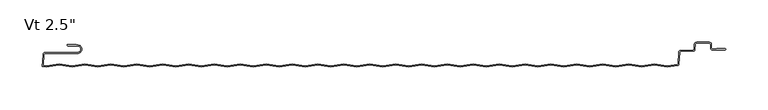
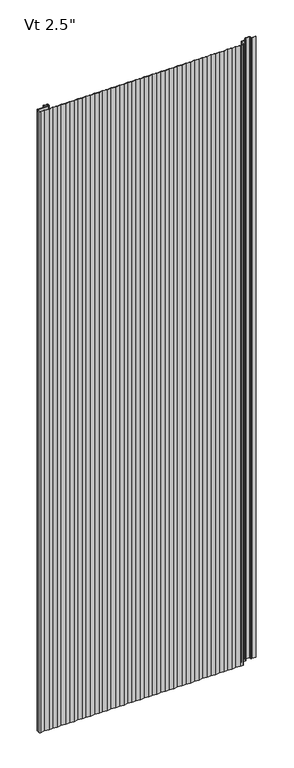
"""IFC4 building model written with IfcOpenShell, lengths in millimetres: plate geometry."""

from ifc_helpers import new_model, si_unit, point, frame, origin, place, context, project, spatial, polyline, circle_curve, ellipse_curve, trimmed, source, transform, mapped, element, save
from ifc_brep_helpers import plane_surface, cylinder_surface, revolved_surface, extruded_surface, advanced_brep


def plate_2a4f19af(model_context):
    return source(origin(), model_context, "Body", "AdvancedBrep", [
        advanced_brep(
        [(-404.2252049, -38.1, 2400.0), (-404.2252049, -39.6875, 2400.0), (-392.9142674, -39.6875, 2400.0), (-392.9142674, -47.625, 2400.0), (-431.0975721, -47.625, 2400.0), (-433.4755586, -49.881625, 2400.0), (-434.21832, -64.0543553, 2400.0), (-429.8646686, -64.7509395, 2400.0), (-414.6246686, -62.3125395, 2400.0), (-399.3846686, -64.7509395, 2400.0), (-384.1446686, -62.3125395, 2400.0), (-368.9046686, -64.7509395, 2400.0), (-353.6646686, -62.3125395, 2400.0), (-338.4246686, -64.7509395, 2400.0), (-323.1846686, -62.3125395, 2400.0), (-307.9446686, -64.7509395, 2400.0), (-292.7046686, -62.3125395, 2400.0), (-277.4646686, -64.7509395, 2400.0), (-262.2246686, -62.3125395, 2400.0), (-246.9846686, -64.7509395, 2400.0), (-231.7446686, -62.3125395, 2400.0), (-216.5046686, -64.7509395, 2400.0), (-201.2646686, -62.3125395, 2400.0), (-186.0246686, -64.7509395, 2400.0), (-170.7846686, -62.3125395, 2400.0), (-155.5446686, -64.7509395, 2400.0), (-140.3046686, -62.3125395, 2400.0), (-125.0646686, -64.7509395, 2400.0), (-109.8246686, -62.3125395, 2400.0), (-94.5846686, -64.7509395, 2400.0), (-79.3446686, -62.3125395, 2400.0), (-64.1046686, -64.7509395, 2400.0), (-48.8646686, -62.3125395, 2400.0), (-33.6246686, -64.7509395, 2400.0), (-18.3846686, -62.3125395, 2400.0), (-3.1446686, -64.7509395, 2400.0), (12.0953314, -62.3125395, 2400.0), (27.3353314, -64.7509395, 2400.0), (42.5753314, -62.3125395, 2400.0), (57.8153314, -64.7509395, 2400.0), (73.0553314, -62.3125395, 2400.0), (88.2953314, -64.7509395, 2400.0), (103.5353314, -62.3125395, 2400.0), (118.7753314, -64.7509395, 2400.0), (134.0153314, -62.3125395, 2400.0), (149.2553314, -64.7509395, 2400.0), (164.4953314, -62.3125395, 2400.0), (179.7353314, -64.7509395, 2400.0), (194.9753314, -62.3125395, 2400.0), (210.2153314, -64.7509395, 2400.0), (225.4553314, -62.3125395, 2400.0), (240.6953314, -64.7509395, 2400.0), (255.9353314, -62.3125395, 2400.0), (271.1753314, -64.7509395, 2400.0), (286.4153314, -62.3125395, 2400.0), (301.4527639, -64.7185287, 2400.0), (313.8944828, -62.7278537, 2400.0), (315.2289973, -61.243375, 2400.0), (315.9470603, -47.5419167, 2400.0), (317.5323847, -46.0375, 2400.0), (331.6886911, -46.0375, 2400.0), (334.0666776, -43.780875, 2400.0), (334.3687539, -38.0169167, 2400.0), (335.9540783, -36.5125, 2400.0), (350.8294826, -36.5125, 2400.0), (352.4169826, -38.1, 2400.0), (352.4169826, -42.2671875, 2400.0), (354.7982326, -44.6484375, 2400.0), (369.2898532, -44.6484375, 2400.0), (369.2898532, -42.8546875, 2400.0), (359.5607326, -42.8546875, 2400.0), (359.5607326, -43.6484375, 2400.0), (354.7982326, -43.6484375, 2400.0), (353.4169826, -42.2671875, 2400.0), (353.4169826, -38.1, 2400.0), (350.8294826, -35.5125, 2400.0), (335.9540783, -35.5125, 2400.0), (333.3701244, -37.9645807, 2400.0), (333.0680481, -43.728539, 2400.0), (331.6886911, -45.0375, 2400.0), (317.5323847, -45.0375, 2400.0), (314.9484307, -47.4895807, 2400.0), (314.2303677, -61.191039, 2400.0), (313.7364923, -61.740413, 2400.0), (301.4527639, -63.7058096, 2400.0), (286.4153314, -61.2998204, 2400.0), (271.1753314, -63.7382204, 2400.0), (255.9353314, -61.2998204, 2400.0), (240.6953314, -63.7382204, 2400.0), (225.4553314, -61.2998204, 2400.0), (210.2153314, -63.7382204, 2400.0), (194.9753314, -61.2998204, 2400.0), (179.7353314, -63.7382204, 2400.0), (164.4953314, -61.2998204, 2400.0), (149.2553314, -63.7382204, 2400.0), (134.0153314, -61.2998204, 2400.0), (118.7753314, -63.7382204, 2400.0), (103.5353314, -61.2998204, 2400.0), (88.2953314, -63.7382204, 2400.0), (73.0553314, -61.2998204, 2400.0), (57.8153314, -63.7382204, 2400.0), (42.5753314, -61.2998204, 2400.0), (27.3353314, -63.7382204, 2400.0), (12.0953314, -61.2998204, 2400.0), (-3.1446686, -63.7382204, 2400.0), (-18.3846686, -61.2998204, 2400.0), (-33.6246686, -63.7382204, 2400.0), (-48.8646686, -61.2998204, 2400.0), (-64.1046686, -63.7382204, 2400.0), (-79.3446686, -61.2998204, 2400.0), (-94.5846686, -63.7382204, 2400.0), (-109.8246686, -61.2998204, 2400.0), (-125.0646686, -63.7382204, 2400.0), (-140.3046686, -61.2998204, 2400.0), (-155.5446686, -63.7382204, 2400.0), (-170.7846686, -61.2998204, 2400.0), (-186.0246686, -63.7382204, 2400.0), (-201.2646686, -61.2998204, 2400.0), (-216.5046686, -63.7382204, 2400.0), (-231.7446686, -61.2998204, 2400.0), (-246.9846686, -63.7382204, 2400.0), (-262.2246686, -61.2998204, 2400.0), (-277.4646686, -63.7382204, 2400.0), (-292.7046686, -61.2998204, 2400.0), (-307.9446686, -63.7382204, 2400.0), (-323.1846686, -61.2998204, 2400.0), (-338.4246686, -63.7382204, 2400.0), (-353.6646686, -61.2998204, 2400.0), (-368.9046686, -63.7382204, 2400.0), (-384.1446686, -61.2998204, 2400.0), (-399.3846686, -63.7382204, 2400.0), (-414.6246686, -61.2998204, 2400.0), (-429.8646686, -63.7382204, 2400.0), (-433.1726415, -63.2089447, 2400.0), (-432.4769291, -49.933961, 2400.0), (-431.0975721, -48.625, 2400.0), (-392.9142674, -48.625, 2400.0), (-392.9142674, -38.6875, 2400.0), (-394.5017674, -38.89375, 2400.0), (-394.5017674, -38.1, 2400.0), (-404.2252049, -38.1, 0.0), (-394.5017674, -38.1, 0.0), (-394.5017674, -38.89375, 0.0), (-392.9142674, -38.6875, 0.0), (-392.9142674, -48.625, 0.0), (-431.0975721, -48.625, 0.0), (-432.4769291, -49.933961, 0.0), (-433.1726415, -63.2089447, 0.0), (-429.8646686, -63.7382204, 0.0), (-414.6246686, -61.2998204, 0.0), (-399.3846686, -63.7382204, 0.0), (-384.1446686, -61.2998204, 0.0), (-368.9046686, -63.7382204, 0.0), (-353.6646686, -61.2998204, 0.0), (-338.4246686, -63.7382204, 0.0), (-323.1846686, -61.2998204, 0.0), (-307.9446686, -63.7382204, 0.0), (-292.7046686, -61.2998204, 0.0), (-277.4646686, -63.7382204, 0.0), (-262.2246686, -61.2998204, 0.0), (-246.9846686, -63.7382204, 0.0), (-231.7446686, -61.2998204, 0.0), (-216.5046686, -63.7382204, 0.0), (-201.2646686, -61.2998204, 0.0), (-186.0246686, -63.7382204, 0.0), (-170.7846686, -61.2998204, 0.0), (-155.5446686, -63.7382204, 0.0), (-140.3046686, -61.2998204, 0.0), (-125.0646686, -63.7382204, 0.0), (-109.8246686, -61.2998204, 0.0), (-94.5846686, -63.7382204, 0.0), (-79.3446686, -61.2998204, 0.0), (-64.1046686, -63.7382204, 0.0), (-48.8646686, -61.2998204, 0.0), (-33.6246686, -63.7382204, 0.0), (-18.3846686, -61.2998204, 0.0), (-3.1446686, -63.7382204, 0.0), (12.0953314, -61.2998204, 0.0), (27.3353314, -63.7382204, 0.0), (42.5753314, -61.2998204, 0.0), (57.8153314, -63.7382204, 0.0), (73.0553314, -61.2998204, 0.0), (88.2953314, -63.7382204, 0.0), (103.5353314, -61.2998204, 0.0), (118.7753314, -63.7382204, 0.0), (134.0153314, -61.2998204, 0.0), (149.2553314, -63.7382204, 0.0), (164.4953314, -61.2998204, 0.0), (179.7353314, -63.7382204, 0.0), (194.9753314, -61.2998204, 0.0), (210.2153314, -63.7382204, 0.0), (225.4553314, -61.2998204, 0.0), (240.6953314, -63.7382204, 0.0), (255.9353314, -61.2998204, 0.0), (271.1753314, -63.7382204, 0.0), (286.4153314, -61.2998204, 0.0), (301.4527639, -63.7058096, 0.0), (313.7364923, -61.740413, 0.0), (314.2303677, -61.191039, 0.0), (314.9484307, -47.4895807, 0.0), (317.5323847, -45.0375, 0.0), (331.6886911, -45.0375, 0.0), (333.0680481, -43.728539, 0.0), (333.3701244, -37.9645807, 0.0), (335.9540783, -35.5125, 0.0), (350.8294826, -35.5125, 0.0), (353.4169826, -38.1, 0.0), (353.4169826, -42.2671875, 0.0), (354.7982326, -43.6484375, 0.0), (359.5607326, -43.6484375, 0.0), (359.5607326, -42.8546875, 0.0), (369.2898532, -42.8546875, 0.0), (369.2898532, -44.6484375, 0.0), (354.7982326, -44.6484375, 0.0), (352.4169826, -42.2671875, 0.0), (352.4169826, -38.1, 0.0), (350.8294826, -36.5125, 0.0), (335.9540783, -36.5125, 0.0), (334.3687539, -38.0169167, 0.0), (334.0666776, -43.780875, 0.0), (331.6886911, -46.0375, 0.0), (317.5323847, -46.0375, 0.0), (315.9470603, -47.5419167, 0.0), (315.2289973, -61.243375, 0.0), (313.8944828, -62.7278537, 0.0), (301.4527639, -64.7185287, 0.0), (286.4153314, -62.3125395, 0.0), (271.1753314, -64.7509395, 0.0), (255.9353314, -62.3125395, 0.0), (240.6953314, -64.7509395, 0.0), (225.4553314, -62.3125395, 0.0), (210.2153314, -64.7509395, 0.0), (194.9753314, -62.3125395, 0.0), (179.7353314, -64.7509395, 0.0), (164.4953314, -62.3125395, 0.0), (149.2553314, -64.7509395, 0.0), (134.0153314, -62.3125395, 0.0), (118.7753314, -64.7509395, 0.0), (103.5353314, -62.3125395, 0.0), (88.2953314, -64.7509395, 0.0), (73.0553314, -62.3125395, 0.0), (57.8153314, -64.7509395, 0.0), (42.5753314, -62.3125395, 0.0), (27.3353314, -64.7509395, 0.0), (12.0953314, -62.3125395, 0.0), (-3.1446686, -64.7509395, 0.0), (-18.3846686, -62.3125395, 0.0), (-33.6246686, -64.7509395, 0.0), (-48.8646686, -62.3125395, 0.0), (-64.1046686, -64.7509395, 0.0), (-79.3446686, -62.3125395, 0.0), (-94.5846686, -64.7509395, 0.0), (-109.8246686, -62.3125395, 0.0), (-125.0646686, -64.7509395, 0.0), (-140.3046686, -62.3125395, 0.0), (-155.5446686, -64.7509395, 0.0), (-170.7846686, -62.3125395, 0.0), (-186.0246686, -64.7509395, 0.0), (-201.2646686, -62.3125395, 0.0), (-216.5046686, -64.7509395, 0.0), (-231.7446686, -62.3125395, 0.0), (-246.9846686, -64.7509395, 0.0), (-262.2246686, -62.3125395, 0.0), (-277.4646686, -64.7509395, 0.0), (-292.7046686, -62.3125395, 0.0), (-307.9446686, -64.7509395, 0.0), (-323.1846686, -62.3125395, 0.0), (-338.4246686, -64.7509395, 0.0), (-353.6646686, -62.3125395, 0.0), (-368.9046686, -64.7509395, 0.0), (-384.1446686, -62.3125395, 0.0), (-399.3846686, -64.7509395, 0.0), (-414.6246686, -62.3125395, 0.0), (-429.8646686, -64.7509395, 0.0), (-434.21832, -64.0543553, 0.0), (-433.4755586, -49.881625, 0.0), (-431.0975721, -47.625, 0.0), (-392.9142674, -47.625, 0.0), (-392.9142674, -39.6875, 0.0), (-404.2252049, -39.6875, 0.0)],
        [
            (0, 1, circle_curve(frame((-404.2252049, -38.89375, 2400.0), z_axis=(0.0, 0.0, 1.0), x_axis=(1.0, 0.0, 0.0)), 0.79375)),
            (1, 2),
            (2, 3, circle_curve(frame((-392.9142674, -43.65625, 2400.0), z_axis=(0.0, 0.0, -1.0), x_axis=(1.0, 0.0, 0.0)), 3.96875)),
            (3, 4),
            (4, 5, circle_curve(frame((-431.0975721, -50.00625, 2400.0), z_axis=(0.0, 0.0, 1.0), x_axis=(1.0, 0.0, 0.0)), 2.38125)),
            (5, 6),
            (6, 7),
            (7, 8),
            (8, 9),
            (9, 10),
            (10, 11),
            (11, 12),
            (12, 13),
            (13, 14),
            (14, 15),
            (15, 16),
            (16, 17),
            (17, 18),
            (18, 19),
            (19, 20),
            (20, 21),
            (21, 22),
            (22, 23),
            (23, 24),
            (24, 25),
            (25, 26),
            (26, 27),
            (27, 28),
            (28, 29),
            (29, 30),
            (30, 31),
            (31, 32),
            (32, 33),
            (33, 34),
            (34, 35),
            (35, 36),
            (36, 37),
            (37, 38),
            (38, 39),
            (39, 40),
            (40, 41),
            (41, 42),
            (42, 43),
            (43, 44),
            (44, 45),
            (45, 46),
            (46, 47),
            (47, 48),
            (48, 49),
            (49, 50),
            (50, 51),
            (51, 52),
            (52, 53),
            (53, 54),
            (54, 55),
            (55, 56),
            (56, 57, circle_curve(frame((313.6436729, -61.1602917, 2400.0), z_axis=(0.0, 0.0, 1.0), x_axis=(1.0, 0.0, 0.0)), 1.5875)),
            (57, 58),
            (58, 59, circle_curve(frame((317.5323847, -47.625, 2400.0), z_axis=(0.0, 0.0, -1.0), x_axis=(1.0, 0.0, 0.0)), 1.5875)),
            (59, 60),
            (60, 61, circle_curve(frame((331.6886911, -43.65625, 2400.0), z_axis=(0.0, 0.0, 1.0), x_axis=(1.0, 0.0, 0.0)), 2.38125)),
            (61, 62),
            (62, 63, circle_curve(frame((335.9540783, -38.1, 2400.0), z_axis=(0.0, 0.0, -1.0), x_axis=(1.0, 0.0, 0.0)), 1.5875)),
            (63, 64),
            (64, 65, circle_curve(frame((350.8294826, -38.1, 2400.0), z_axis=(0.0, 0.0, -1.0), x_axis=(1.0, 0.0, 0.0)), 1.5875)),
            (65, 66),
            (66, 67, circle_curve(frame((354.7982326, -42.2671875, 2400.0), z_axis=(0.0, 0.0, 1.0), x_axis=(1.0, 0.0, 0.0)), 2.38125)),
            (67, 68),
            (68, 69, ellipse_curve(frame((369.2898532, -43.7515625, 2400.0), z_axis=(0.0, 0.0, 1.0), x_axis=(0.0, 1.0, 0.0)), 0.896875, 0.7852275)),
            (69, 70),
            (70, 71),
            (71, 72),
            (72, 73, circle_curve(frame((354.7982326, -42.2671875, 2400.0), z_axis=(0.0, 0.0, -1.0), x_axis=(1.0, 0.0, 0.0)), 1.38125)),
            (73, 74),
            (74, 75, circle_curve(frame((350.8294826, -38.1, 2400.0), z_axis=(0.0, 0.0, 1.0), x_axis=(1.0, 0.0, 0.0)), 2.5875)),
            (75, 76),
            (76, 77, circle_curve(frame((335.9540783, -38.1, 2400.0), z_axis=(0.0, 0.0, 1.0), x_axis=(1.0, 0.0, 0.0)), 2.5875)),
            (77, 78),
            (78, 79, circle_curve(frame((331.6886911, -43.65625, 2400.0), z_axis=(0.0, 0.0, -1.0), x_axis=(1.0, 0.0, 0.0)), 1.38125)),
            (79, 80),
            (80, 81, circle_curve(frame((317.5323847, -47.625, 2400.0), z_axis=(0.0, 0.0, 1.0), x_axis=(1.0, 0.0, 0.0)), 2.5875)),
            (81, 82),
            (82, 83, circle_curve(frame((313.6436729, -61.1602917, 2400.0), z_axis=(0.0, 0.0, -1.0), x_axis=(1.0, 0.0, 0.0)), 0.5875)),
            (83, 84),
            (84, 85),
            (85, 86),
            (86, 87),
            (87, 88),
            (88, 89),
            (89, 90),
            (90, 91),
            (91, 92),
            (92, 93),
            (93, 94),
            (94, 95),
            (95, 96),
            (96, 97),
            (97, 98),
            (98, 99),
            (99, 100),
            (100, 101),
            (101, 102),
            (102, 103),
            (103, 104),
            (104, 105),
            (105, 106),
            (106, 107),
            (107, 108),
            (108, 109),
            (109, 110),
            (110, 111),
            (111, 112),
            (112, 113),
            (113, 114),
            (114, 115),
            (115, 116),
            (116, 117),
            (117, 118),
            (118, 119),
            (119, 120),
            (120, 121),
            (121, 122),
            (122, 123),
            (123, 124),
            (124, 125),
            (125, 126),
            (126, 127),
            (127, 128),
            (128, 129),
            (129, 130),
            (130, 131),
            (131, 132),
            (132, 133),
            (133, 134),
            (134, 135, circle_curve(frame((-431.0975721, -50.00625, 2400.0), z_axis=(0.0, 0.0, -1.0), x_axis=(1.0, 0.0, 0.0)), 1.38125)),
            (135, 136),
            (136, 137, circle_curve(frame((-392.9142674, -43.65625, 2400.0), z_axis=(0.0, 0.0, 1.0), x_axis=(1.0, 0.0, 0.0)), 4.96875)),
            (137, 138),
            (138, 139),
            (139, 0),
            (140, 141),
            (141, 142),
            (142, 143),
            (143, 144, circle_curve(frame((-392.9142674, -43.65625, 0.0), z_axis=(0.0, 0.0, -1.0), x_axis=(1.0, 0.0, 0.0)), 4.96875)),
            (144, 145),
            (145, 146, circle_curve(frame((-431.0975721, -50.00625, 0.0), z_axis=(0.0, 0.0, 1.0), x_axis=(1.0, 0.0, 0.0)), 1.38125)),
            (146, 147),
            (147, 148),
            (148, 149),
            (149, 150),
            (150, 151),
            (151, 152),
            (152, 153),
            (153, 154),
            (154, 155),
            (155, 156),
            (156, 157),
            (157, 158),
            (158, 159),
            (159, 160),
            (160, 161),
            (161, 162),
            (162, 163),
            (163, 164),
            (164, 165),
            (165, 166),
            (166, 167),
            (167, 168),
            (168, 169),
            (169, 170),
            (170, 171),
            (171, 172),
            (172, 173),
            (173, 174),
            (174, 175),
            (175, 176),
            (176, 177),
            (177, 178),
            (178, 179),
            (179, 180),
            (180, 181),
            (181, 182),
            (182, 183),
            (183, 184),
            (184, 185),
            (185, 186),
            (186, 187),
            (187, 188),
            (188, 189),
            (189, 190),
            (190, 191),
            (191, 192),
            (192, 193),
            (193, 194),
            (194, 195),
            (195, 196),
            (196, 197),
            (197, 198, circle_curve(frame((313.6436729, -61.1602917, 0.0), z_axis=(0.0, 0.0, 1.0), x_axis=(1.0, 0.0, 0.0)), 0.5875)),
            (198, 199),
            (199, 200, circle_curve(frame((317.5323847, -47.625, 0.0), z_axis=(0.0, 0.0, -1.0), x_axis=(1.0, 0.0, 0.0)), 2.5875)),
            (200, 201),
            (201, 202, circle_curve(frame((331.6886911, -43.65625, 0.0), z_axis=(0.0, 0.0, 1.0), x_axis=(1.0, 0.0, 0.0)), 1.38125)),
            (202, 203),
            (203, 204, circle_curve(frame((335.9540783, -38.1, 0.0), z_axis=(0.0, 0.0, -1.0), x_axis=(1.0, 0.0, 0.0)), 2.5875)),
            (204, 205),
            (205, 206, circle_curve(frame((350.8294826, -38.1, 0.0), z_axis=(0.0, 0.0, -1.0), x_axis=(1.0, 0.0, 0.0)), 2.5875)),
            (206, 207),
            (207, 208, circle_curve(frame((354.7982326, -42.2671875, 0.0), z_axis=(0.0, 0.0, 1.0), x_axis=(1.0, 0.0, 0.0)), 1.38125)),
            (208, 209),
            (209, 210),
            (210, 211),
            (211, 212, ellipse_curve(frame((369.2898532, -43.7515625, 0.0), z_axis=(0.0, 0.0, -1.0), x_axis=(0.0, 1.0, 0.0)), 0.896875, 0.7852275)),
            (212, 213),
            (213, 214, circle_curve(frame((354.7982326, -42.2671875, 0.0), z_axis=(0.0, 0.0, -1.0), x_axis=(1.0, 0.0, 0.0)), 2.38125)),
            (214, 215),
            (215, 216, circle_curve(frame((350.8294826, -38.1, 0.0), z_axis=(0.0, 0.0, 1.0), x_axis=(1.0, 0.0, 0.0)), 1.5875)),
            (216, 217),
            (217, 218, circle_curve(frame((335.9540783, -38.1, 0.0), z_axis=(0.0, 0.0, 1.0), x_axis=(1.0, 0.0, 0.0)), 1.5875)),
            (218, 219),
            (219, 220, circle_curve(frame((331.6886911, -43.65625, 0.0), z_axis=(0.0, 0.0, -1.0), x_axis=(1.0, 0.0, 0.0)), 2.38125)),
            (220, 221),
            (221, 222, circle_curve(frame((317.5323847, -47.625, 0.0), z_axis=(0.0, 0.0, 1.0), x_axis=(1.0, 0.0, 0.0)), 1.5875)),
            (222, 223),
            (223, 224, circle_curve(frame((313.6436729, -61.1602917, 0.0), z_axis=(0.0, 0.0, -1.0), x_axis=(1.0, 0.0, 0.0)), 1.5875)),
            (224, 225),
            (225, 226),
            (226, 227),
            (227, 228),
            (228, 229),
            (229, 230),
            (230, 231),
            (231, 232),
            (232, 233),
            (233, 234),
            (234, 235),
            (235, 236),
            (236, 237),
            (237, 238),
            (238, 239),
            (239, 240),
            (240, 241),
            (241, 242),
            (242, 243),
            (243, 244),
            (244, 245),
            (245, 246),
            (246, 247),
            (247, 248),
            (248, 249),
            (249, 250),
            (250, 251),
            (251, 252),
            (252, 253),
            (253, 254),
            (254, 255),
            (255, 256),
            (256, 257),
            (257, 258),
            (258, 259),
            (259, 260),
            (260, 261),
            (261, 262),
            (262, 263),
            (263, 264),
            (264, 265),
            (265, 266),
            (266, 267),
            (267, 268),
            (268, 269),
            (269, 270),
            (270, 271),
            (271, 272),
            (272, 273),
            (273, 274),
            (274, 275),
            (275, 276, circle_curve(frame((-431.0975721, -50.00625, 0.0), z_axis=(0.0, 0.0, -1.0), x_axis=(1.0, 0.0, 0.0)), 2.38125)),
            (276, 277),
            (277, 278, circle_curve(frame((-392.9142674, -43.65625, 0.0), z_axis=(0.0, 0.0, 1.0), x_axis=(1.0, 0.0, 0.0)), 3.96875)),
            (278, 279),
            (279, 140, circle_curve(frame((-404.2252049, -38.89375, 0.0), z_axis=(0.0, 0.0, -1.0), x_axis=(1.0, 0.0, 0.0)), 0.79375)),
            (139, 141),
            (140, 0),
            (279, 1),
            (278, 2),
            (277, 3),
            (276, 4),
            (275, 5),
            (274, 6),
            (58, 222),
            (221, 59),
            (220, 60),
            (219, 61),
            (218, 62),
            (217, 63),
            (134, 146),
            (145, 135),
            (80, 200),
            (199, 81),
            (79, 201),
            (78, 202),
            (77, 203),
            (76, 204),
            (71, 209),
            (208, 72),
            (207, 73),
            (206, 74),
            (216, 64),
            (215, 65),
            (214, 66),
            (213, 67),
            (212, 68),
            (75, 205),
            (144, 136),
            (143, 137),
            (138, 142),
            (70, 210),
            (69, 211),
            (85, 195),
            (194, 86),
            (193, 87),
            (192, 88),
            (191, 89),
            (190, 90),
            (189, 91),
            (188, 92),
            (187, 93),
            (186, 94),
            (185, 95),
            (184, 96),
            (183, 97),
            (182, 98),
            (181, 99),
            (129, 151),
            (150, 130),
            (149, 131),
            (148, 132),
            (147, 133),
            (273, 7),
            (272, 8),
            (271, 9),
            (270, 10),
            (24, 256),
            (255, 25),
            (254, 26),
            (253, 27),
            (252, 28),
            (40, 240),
            (239, 41),
            (238, 42),
            (39, 241),
            (38, 242),
            (37, 243),
            (36, 244),
            (35, 245),
            (34, 246),
            (33, 247),
            (32, 248),
            (31, 249),
            (30, 250),
            (29, 251),
            (114, 166),
            (165, 115),
            (113, 167),
            (112, 168),
            (111, 169),
            (110, 170),
            (109, 171),
            (108, 172),
            (107, 173),
            (106, 174),
            (105, 175),
            (104, 176),
            (103, 177),
            (102, 178),
            (101, 179),
            (100, 180),
            (121, 159),
            (158, 122),
            (57, 223),
            (198, 82),
            (54, 226),
            (225, 55),
            (84, 196),
            (237, 43),
            (236, 44),
            (235, 45),
            (234, 46),
            (233, 47),
            (232, 48),
            (231, 49),
            (230, 50),
            (229, 51),
            (228, 52),
            (157, 123),
            (227, 53),
            (224, 56),
            (197, 83),
            (164, 116),
            (163, 117),
            (162, 118),
            (161, 119),
            (160, 120),
            (19, 261),
            (260, 20),
            (18, 262),
            (259, 21),
            (22, 258),
            (257, 23),
            (156, 124),
            (125, 155),
            (154, 126),
            (153, 127),
            (12, 268),
            (267, 13),
            (266, 14),
            (265, 15),
            (264, 16),
            (263, 17),
            (152, 128),
            (269, 11),
        ],
        [
            plane_surface(frame((0.00625, -63.5, 2400.0), z_axis=(0.0, 0.0, 1.0), x_axis=(0.0, -1.0, 0.0))),
            plane_surface(frame((0.00625, -63.5, 0.0), z_axis=(0.0, 0.0, -1.0), x_axis=(0.0, -1.0, 0.0))),
            plane_surface(frame((-404.2252049, -38.1, 2400.0), z_axis=(0.0, 1.0, 0.0), x_axis=(0.0, 0.0, -1.0))),
            cylinder_surface(frame((-404.2252049, -38.89375, 2400.0), z_axis=(0.0, 0.0, 1.0), x_axis=(1.0, 0.0, 0.0)), 0.79375),
            plane_surface(frame((-392.9142674, -39.6875, 2400.0), z_axis=(0.0, -1.0, 0.0), x_axis=(0.0, 0.0, -1.0))),
            revolved_surface(polyline([(-388.9455174, -43.65625, 0.0), (-388.9455174, -43.65625, 2400.0)]), (-392.9142674, -43.65625, 2400.0), (0.0, 0.0, -1.0)),
            plane_surface(frame((-431.0975721, -47.625, 2400.0), z_axis=(0.0, 1.0, 0.0), x_axis=(0.0, 0.0, -1.0))),
            cylinder_surface(frame((-431.0975721, -50.00625, 2400.0), z_axis=(0.0, 0.0, 1.0), x_axis=(1.0, 0.0, 0.0)), 2.38125),
            plane_surface(frame((-434.21832, -64.0543553, 2400.0), z_axis=(-0.9986295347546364, 0.05233595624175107, 0.0), x_axis=(0.0, 0.0, -1.0))),
            revolved_surface(polyline([(319.1198847, -47.625, 0.0), (319.1198847, -47.625, 2400.0)]), (317.5323847, -47.625, 2400.0), (0.0, 0.0, -1.0)),
            plane_surface(frame((331.6886911, -46.0375, 2400.0), z_axis=(0.0, -1.0, 0.0), x_axis=(0.0, 0.0, -1.0))),
            cylinder_surface(frame((331.6886911, -43.65625, 2400.0), z_axis=(0.0, 0.0, 1.0), x_axis=(1.0, 0.0, 0.0)), 2.38125),
            plane_surface(frame((334.3687539, -38.0169167, 2400.0), z_axis=(0.9986295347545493, -0.052335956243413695, 0.0), x_axis=(0.0, 0.0, -1.0))),
            revolved_surface(polyline([(337.54157829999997, -38.1, 0.0), (337.54157829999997, -38.1, 2400.0)]), (335.9540783, -38.1, 2400.0), (0.0, 0.0, -1.0)),
            revolved_surface(polyline([(-429.71632209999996, -50.00625, 0.0), (-429.71632209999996, -50.00625, 2400.0)]), (-431.0975721, -50.00625, 2400.0), (0.0, 0.0, -1.0)),
            cylinder_surface(frame((317.5323847, -47.625, 2400.0), z_axis=(0.0, 0.0, 1.0), x_axis=(1.0, 0.0, 0.0)), 2.5875),
            plane_surface(frame((317.5323847, -45.0375, 2400.0), z_axis=(0.0, 1.0, 0.0), x_axis=(0.0, 0.0, -1.0))),
            revolved_surface(polyline([(333.06994110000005, -43.65625, 0.0), (333.06994110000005, -43.65625, 2400.0)]), (331.6886911, -43.65625, 2400.0), (0.0, 0.0, -1.0)),
            plane_surface(frame((333.0680481, -43.728539, 2400.0), z_axis=(-0.998629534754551, 0.05233595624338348, 0.0), x_axis=(0.0, 0.0, -1.0))),
            cylinder_surface(frame((335.9540783, -38.1, 2400.0), z_axis=(0.0, 0.0, 1.0), x_axis=(1.0, 0.0, 0.0)), 2.5875),
            plane_surface(frame((354.7982326, -43.6484375, 2400.0), z_axis=(0.0, 1.0, 0.0), x_axis=(0.0, 0.0, -1.0))),
            revolved_surface(polyline([(356.17948260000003, -42.2671875, 0.0), (356.17948260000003, -42.2671875, 2400.0)]), (354.7982326, -42.2671875, 2400.0), (0.0, 0.0, -1.0)),
            plane_surface(frame((353.4169826, -38.1, 2400.0), z_axis=(1.0, 0.0, 0.0), x_axis=(0.0, 0.0, -1.0))),
            plane_surface(frame((350.8294826, -36.5125, 2400.0), z_axis=(0.0, -1.0, 0.0), x_axis=(0.0, 0.0, -1.0))),
            revolved_surface(polyline([(352.4169826, -38.1, 0.0), (352.4169826, -38.1, 2400.0)]), (350.8294826, -38.1, 2400.0), (0.0, 0.0, -1.0)),
            plane_surface(frame((352.4169826, -42.2671875, 2400.0), z_axis=(-1.0, 0.0, 0.0), x_axis=(0.0, 0.0, -1.0))),
            cylinder_surface(frame((354.7982326, -42.2671875, 2400.0), z_axis=(0.0, 0.0, 1.0), x_axis=(1.0, 0.0, 0.0)), 2.38125),
            plane_surface(frame((369.2898532, -44.6484375, 2400.0), z_axis=(0.0, -1.0, 0.0), x_axis=(0.0, 0.0, -1.0))),
            plane_surface(frame((335.9540783, -35.5125, 2400.0), z_axis=(0.0, 1.0, 0.0), x_axis=(0.0, 0.0, -1.0))),
            cylinder_surface(frame((350.8294826, -38.1, 2400.0), z_axis=(0.0, 0.0, 1.0), x_axis=(1.0, 0.0, 0.0)), 2.5875),
            plane_surface(frame((-392.9142674, -48.625, 2400.0), z_axis=(0.0, -1.0, 0.0), x_axis=(0.0, 0.0, -1.0))),
            cylinder_surface(frame((-392.9142674, -43.65625, 2400.0), z_axis=(0.0, 0.0, 1.0), x_axis=(1.0, 0.0, 0.0)), 4.96875),
            plane_surface(frame((-394.5017674, -38.1, 2400.0), z_axis=(1.0, 0.0, 0.0), x_axis=(0.0, 0.0, -1.0))),
            plane_surface(frame((-394.5017674, -38.89375, 2400.0), z_axis=(-0.12883844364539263, 0.9916655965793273, 0.0), x_axis=(0.0, 0.0, -1.0))),
            plane_surface(frame((359.5607326, -43.6484375, 2400.0), z_axis=(-1.0, 0.0, 0.0), x_axis=(0.0, 0.0, -1.0))),
            plane_surface(frame((359.5607326, -42.8546875, 2400.0), z_axis=(0.0, 1.0, 0.0), x_axis=(0.0, 0.0, -1.0))),
            extruded_surface(trimmed(ellipse_curve(frame((369.2898532, -43.7515625, 2400.0), z_axis=(0.0, 0.0, -1.0), x_axis=(0.0, 1.0, 0.0)), 0.896875, 0.7852275), [point((369.2898532, -42.8546875, 2400.0))], [point((369.2898532, -44.6484375, 2400.0))], True, "CARTESIAN"), (0.0, 0.0, -2400.0), 2400.0),
            plane_surface(frame((271.1753314, -63.7382204, 2400.0), z_axis=(-0.15799050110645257, 0.9874406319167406, 0.0), x_axis=(0.0, 0.0, -1.0))),
            plane_surface(frame((255.9353314, -61.2998204, 2400.0), z_axis=(0.157990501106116, 0.9874406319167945, 0.0), x_axis=(0.0, 0.0, -1.0))),
            plane_surface(frame((240.6953314, -63.7382204, 2400.0), z_axis=(-0.15799050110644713, 0.9874406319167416, 0.0), x_axis=(0.0, 0.0, -1.0))),
            plane_surface(frame((225.4553314, -61.2998204, 2400.0), z_axis=(0.157990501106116, 0.9874406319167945, 0.0), x_axis=(0.0, 0.0, -1.0))),
            plane_surface(frame((210.2153314, -63.7382204, 2400.0), z_axis=(-0.15799050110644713, 0.9874406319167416, 0.0), x_axis=(0.0, 0.0, -1.0))),
            plane_surface(frame((194.9753314, -61.2998204, 2400.0), z_axis=(0.157990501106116, 0.9874406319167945, 0.0), x_axis=(0.0, 0.0, -1.0))),
            plane_surface(frame((179.7353314, -63.7382204, 2400.0), z_axis=(-0.15799050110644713, 0.9874406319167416, 0.0), x_axis=(0.0, 0.0, -1.0))),
            plane_surface(frame((164.4953314, -61.2998204, 2400.0), z_axis=(0.15799050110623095, 0.9874406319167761, 0.0), x_axis=(0.0, 0.0, -1.0))),
            plane_surface(frame((149.2553314, -63.7382204, 2400.0), z_axis=(-0.15799050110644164, 0.9874406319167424, 0.0), x_axis=(0.0, 0.0, -1.0))),
            plane_surface(frame((134.0153314, -61.2998204, 2400.0), z_axis=(0.15799050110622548, 0.987440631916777, 0.0), x_axis=(0.0, 0.0, -1.0))),
            plane_surface(frame((118.7753314, -63.7382204, 2400.0), z_axis=(-0.15799050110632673, 0.9874406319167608, 0.0), x_axis=(0.0, 0.0, -1.0))),
            plane_surface(frame((103.5353314, -61.2998204, 2400.0), z_axis=(0.15799050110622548, 0.987440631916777, 0.0), x_axis=(0.0, 0.0, -1.0))),
            plane_surface(frame((88.2953314, -63.7382204, 2400.0), z_axis=(-0.15799050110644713, 0.9874406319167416, 0.0), x_axis=(0.0, 0.0, -1.0))),
            plane_surface(frame((73.0553314, -61.2998204, 2400.0), z_axis=(0.15799050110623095, 0.9874406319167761, 0.0), x_axis=(0.0, 0.0, -1.0))),
            plane_surface(frame((-399.3846686, -63.7382204, 2400.0), z_axis=(-0.15799050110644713, 0.9874406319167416, 0.0), x_axis=(0.0, 0.0, -1.0))),
            plane_surface(frame((-414.6246686, -61.2998204, 2400.0), z_axis=(0.157990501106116, 0.9874406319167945, 0.0), x_axis=(0.0, 0.0, -1.0))),
            plane_surface(frame((-429.8646686, -63.7382204, 2400.0), z_axis=(-0.15799050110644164, 0.9874406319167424, 0.0), x_axis=(0.0, 0.0, -1.0))),
            plane_surface(frame((-433.1726415, -63.2089447, 2400.0), z_axis=(0.1579905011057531, 0.9874406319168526, 0.0), x_axis=(0.0, 0.0, -1.0))),
            plane_surface(frame((-429.8646686, -64.7509395, 2400.0), z_axis=(-0.15799050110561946, -0.9874406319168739, 0.0), x_axis=(0.0, 0.0, -1.0))),
            plane_surface(frame((-414.6246686, -62.3125395, 2400.0), z_axis=(0.15799050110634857, -0.9874406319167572, 0.0), x_axis=(0.0, 0.0, -1.0))),
            plane_surface(frame((-399.3846686, -64.7509395, 2400.0), z_axis=(-0.15799050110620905, -0.9874406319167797, 0.0), x_axis=(0.0, 0.0, -1.0))),
            plane_surface(frame((-384.1446686, -62.3125395, 2400.0), z_axis=(0.15799050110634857, -0.9874406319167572, 0.0), x_axis=(0.0, 0.0, -1.0))),
            plane_surface(frame((-155.5446686, -64.7509395, 2400.0), z_axis=(-0.15799050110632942, -0.9874406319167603, 0.0), x_axis=(0.0, 0.0, -1.0))),
            plane_surface(frame((-140.3046686, -62.3125395, 2400.0), z_axis=(0.15799050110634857, -0.9874406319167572, 0.0), x_axis=(0.0, 0.0, -1.0))),
            plane_surface(frame((-125.0646686, -64.7509395, 2400.0), z_axis=(-0.15799050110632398, -0.9874406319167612, 0.0), x_axis=(0.0, 0.0, -1.0))),
            plane_surface(frame((-109.8246686, -62.3125395, 2400.0), z_axis=(0.15799050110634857, -0.9874406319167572, 0.0), x_axis=(0.0, 0.0, -1.0))),
            plane_surface(frame((88.2953314, -64.7509395, 2400.0), z_axis=(-0.15799050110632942, -0.9874406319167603, 0.0), x_axis=(0.0, 0.0, -1.0))),
            plane_surface(frame((103.5353314, -62.3125395, 2400.0), z_axis=(0.15799050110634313, -0.9874406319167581, 0.0), x_axis=(0.0, 0.0, -1.0))),
            plane_surface(frame((73.0553314, -62.3125395, 2400.0), z_axis=(0.15799050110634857, -0.9874406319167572, 0.0), x_axis=(0.0, 0.0, -1.0))),
            plane_surface(frame((57.8153314, -64.7509395, 2400.0), z_axis=(-0.15799050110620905, -0.9874406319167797, 0.0), x_axis=(0.0, 0.0, -1.0))),
            plane_surface(frame((42.5753314, -62.3125395, 2400.0), z_axis=(0.15799050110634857, -0.9874406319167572, 0.0), x_axis=(0.0, 0.0, -1.0))),
            plane_surface(frame((27.3353314, -64.7509395, 2400.0), z_axis=(-0.15799050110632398, -0.9874406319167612, 0.0), x_axis=(0.0, 0.0, -1.0))),
            plane_surface(frame((12.0953314, -62.3125395, 2400.0), z_axis=(0.15799050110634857, -0.9874406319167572, 0.0), x_axis=(0.0, 0.0, -1.0))),
            plane_surface(frame((-3.1446686, -64.7509395, 2400.0), z_axis=(-0.15799050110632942, -0.9874406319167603, 0.0), x_axis=(0.0, 0.0, -1.0))),
            plane_surface(frame((-18.3846686, -62.3125395, 2400.0), z_axis=(0.1579905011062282, -0.9874406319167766, 0.0), x_axis=(0.0, 0.0, -1.0))),
            plane_surface(frame((-33.6246686, -64.7509395, 2400.0), z_axis=(-0.15799050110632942, -0.9874406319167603, 0.0), x_axis=(0.0, 0.0, -1.0))),
            plane_surface(frame((-48.8646686, -62.3125395, 2400.0), z_axis=(0.15799050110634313, -0.9874406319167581, 0.0), x_axis=(0.0, 0.0, -1.0))),
            plane_surface(frame((-64.1046686, -64.7509395, 2400.0), z_axis=(-0.15799050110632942, -0.9874406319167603, 0.0), x_axis=(0.0, 0.0, -1.0))),
            plane_surface(frame((-79.3446686, -62.3125395, 2400.0), z_axis=(0.15799050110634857, -0.9874406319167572, 0.0), x_axis=(0.0, 0.0, -1.0))),
            plane_surface(frame((-94.5846686, -64.7509395, 2400.0), z_axis=(-0.15799050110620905, -0.9874406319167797, 0.0), x_axis=(0.0, 0.0, -1.0))),
            plane_surface(frame((-170.7846686, -61.2998204, 2400.0), z_axis=(0.15799050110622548, 0.987440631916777, 0.0), x_axis=(0.0, 0.0, -1.0))),
            plane_surface(frame((-155.5446686, -63.7382204, 2400.0), z_axis=(-0.15799050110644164, 0.9874406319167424, 0.0), x_axis=(0.0, 0.0, -1.0))),
            plane_surface(frame((-140.3046686, -61.2998204, 2400.0), z_axis=(0.15799050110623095, 0.9874406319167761, 0.0), x_axis=(0.0, 0.0, -1.0))),
            plane_surface(frame((-125.0646686, -63.7382204, 2400.0), z_axis=(-0.15799050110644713, 0.9874406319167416, 0.0), x_axis=(0.0, 0.0, -1.0))),
            plane_surface(frame((-109.8246686, -61.2998204, 2400.0), z_axis=(0.157990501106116, 0.9874406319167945, 0.0), x_axis=(0.0, 0.0, -1.0))),
            plane_surface(frame((-94.5846686, -63.7382204, 2400.0), z_axis=(-0.15799050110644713, 0.9874406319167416, 0.0), x_axis=(0.0, 0.0, -1.0))),
            plane_surface(frame((-79.3446686, -61.2998204, 2400.0), z_axis=(0.15799050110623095, 0.9874406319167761, 0.0), x_axis=(0.0, 0.0, -1.0))),
            plane_surface(frame((-64.1046686, -63.7382204, 2400.0), z_axis=(-0.15799050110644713, 0.9874406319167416, 0.0), x_axis=(0.0, 0.0, -1.0))),
            plane_surface(frame((-48.8646686, -61.2998204, 2400.0), z_axis=(0.15799050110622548, 0.987440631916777, 0.0), x_axis=(0.0, 0.0, -1.0))),
            plane_surface(frame((-33.6246686, -63.7382204, 2400.0), z_axis=(-0.15799050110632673, 0.9874406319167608, 0.0), x_axis=(0.0, 0.0, -1.0))),
            plane_surface(frame((-18.3846686, -61.2998204, 2400.0), z_axis=(0.15799050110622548, 0.987440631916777, 0.0), x_axis=(0.0, 0.0, -1.0))),
            plane_surface(frame((-3.1446686, -63.7382204, 2400.0), z_axis=(-0.15799050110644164, 0.9874406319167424, 0.0), x_axis=(0.0, 0.0, -1.0))),
            plane_surface(frame((12.0953314, -61.2998204, 2400.0), z_axis=(0.15799050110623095, 0.9874406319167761, 0.0), x_axis=(0.0, 0.0, -1.0))),
            plane_surface(frame((27.3353314, -63.7382204, 2400.0), z_axis=(-0.15799050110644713, 0.9874406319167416, 0.0), x_axis=(0.0, 0.0, -1.0))),
            plane_surface(frame((42.5753314, -61.2998204, 2400.0), z_axis=(0.157990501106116, 0.9874406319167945, 0.0), x_axis=(0.0, 0.0, -1.0))),
            plane_surface(frame((57.8153314, -63.7382204, 2400.0), z_axis=(-0.15799050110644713, 0.9874406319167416, 0.0), x_axis=(0.0, 0.0, -1.0))),
            plane_surface(frame((-432.4769291, -49.933961, 2400.0), z_axis=(0.9986295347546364, -0.05233595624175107, 0.0), x_axis=(0.0, 0.0, -1.0))),
            plane_surface(frame((-277.4646686, -63.7382204, 2400.0), z_axis=(-0.15799050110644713, 0.9874406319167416, 0.0), x_axis=(0.0, 0.0, -1.0))),
            plane_surface(frame((315.9470603, -47.5419167, 2400.0), z_axis=(0.9986295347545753, -0.052335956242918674, 0.0), x_axis=(0.0, 0.0, -1.0))),
            plane_surface(frame((314.2303677, -61.191039, 2400.0), z_axis=(-0.9986295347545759, 0.05233595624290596, 0.0), x_axis=(0.0, 0.0, -1.0))),
            plane_surface(frame((301.4527639, -64.7185287, 2400.0), z_axis=(-0.15799050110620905, -0.9874406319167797, 0.0), x_axis=(0.0, 0.0, -1.0))),
            plane_surface(frame((286.4153314, -61.2998204, 2400.0), z_axis=(0.15799050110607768, 0.9874406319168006, 0.0), x_axis=(0.0, 0.0, -1.0))),
            plane_surface(frame((118.7753314, -64.7509395, 2400.0), z_axis=(-0.15799050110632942, -0.9874406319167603, 0.0), x_axis=(0.0, 0.0, -1.0))),
            plane_surface(frame((134.0153314, -62.3125395, 2400.0), z_axis=(0.1579905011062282, -0.9874406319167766, 0.0), x_axis=(0.0, 0.0, -1.0))),
            plane_surface(frame((149.2553314, -64.7509395, 2400.0), z_axis=(-0.15799050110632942, -0.9874406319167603, 0.0), x_axis=(0.0, 0.0, -1.0))),
            plane_surface(frame((164.4953314, -62.3125395, 2400.0), z_axis=(0.15799050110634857, -0.9874406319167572, 0.0), x_axis=(0.0, 0.0, -1.0))),
            plane_surface(frame((179.7353314, -64.7509395, 2400.0), z_axis=(-0.15799050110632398, -0.9874406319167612, 0.0), x_axis=(0.0, 0.0, -1.0))),
            plane_surface(frame((194.9753314, -62.3125395, 2400.0), z_axis=(0.15799050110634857, -0.9874406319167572, 0.0), x_axis=(0.0, 0.0, -1.0))),
            plane_surface(frame((210.2153314, -64.7509395, 2400.0), z_axis=(-0.15799050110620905, -0.9874406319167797, 0.0), x_axis=(0.0, 0.0, -1.0))),
            plane_surface(frame((225.4553314, -62.3125395, 2400.0), z_axis=(0.15799050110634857, -0.9874406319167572, 0.0), x_axis=(0.0, 0.0, -1.0))),
            plane_surface(frame((240.6953314, -64.7509395, 2400.0), z_axis=(-0.15799050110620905, -0.9874406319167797, 0.0), x_axis=(0.0, 0.0, -1.0))),
            plane_surface(frame((255.9353314, -62.3125395, 2400.0), z_axis=(0.15799050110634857, -0.9874406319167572, 0.0), x_axis=(0.0, 0.0, -1.0))),
            plane_surface(frame((-292.7046686, -61.2998204, 2400.0), z_axis=(0.157990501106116, 0.9874406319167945, 0.0), x_axis=(0.0, 0.0, -1.0))),
            plane_surface(frame((271.1753314, -64.7509395, 2400.0), z_axis=(-0.15799050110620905, -0.9874406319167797, 0.0), x_axis=(0.0, 0.0, -1.0))),
            plane_surface(frame((286.4153314, -62.3125395, 2400.0), z_axis=(0.15799050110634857, -0.9874406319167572, 0.0), x_axis=(0.0, 0.0, -1.0))),
            plane_surface(frame((313.8944828, -62.7278537, 2400.0), z_axis=(0.15799050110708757, -0.987440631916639, 0.0), x_axis=(0.0, 0.0, -1.0))),
            cylinder_surface(frame((313.6436729, -61.1602917, 2400.0), z_axis=(0.0, 0.0, 1.0), x_axis=(1.0, 0.0, 0.0)), 1.5875),
            revolved_surface(polyline([(314.2311729, -61.1602917, 0.0), (314.2311729, -61.1602917, 2400.0)]), (313.6436729, -61.1602917, 2400.0), (0.0, 0.0, -1.0)),
            plane_surface(frame((301.4527639, -63.7058096, 2400.0), z_axis=(-0.15799050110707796, 0.9874406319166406, 0.0), x_axis=(0.0, 0.0, -1.0))),
            plane_surface(frame((-186.0246686, -63.7382204, 2400.0), z_axis=(-0.15799050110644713, 0.9874406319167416, 0.0), x_axis=(0.0, 0.0, -1.0))),
            plane_surface(frame((-201.2646686, -61.2998204, 2400.0), z_axis=(0.157990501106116, 0.9874406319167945, 0.0), x_axis=(0.0, 0.0, -1.0))),
            plane_surface(frame((-216.5046686, -63.7382204, 2400.0), z_axis=(-0.15799050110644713, 0.9874406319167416, 0.0), x_axis=(0.0, 0.0, -1.0))),
            plane_surface(frame((-231.7446686, -61.2998204, 2400.0), z_axis=(0.15799050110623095, 0.9874406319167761, 0.0), x_axis=(0.0, 0.0, -1.0))),
            plane_surface(frame((-246.9846686, -63.7382204, 2400.0), z_axis=(-0.15799050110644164, 0.9874406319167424, 0.0), x_axis=(0.0, 0.0, -1.0))),
            plane_surface(frame((-262.2246686, -61.2998204, 2400.0), z_axis=(0.15799050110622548, 0.987440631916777, 0.0), x_axis=(0.0, 0.0, -1.0))),
            plane_surface(frame((-231.7446686, -62.3125395, 2400.0), z_axis=(0.15799050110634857, -0.9874406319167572, 0.0), x_axis=(0.0, 0.0, -1.0))),
            plane_surface(frame((-246.9846686, -64.7509395, 2400.0), z_axis=(-0.15799050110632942, -0.9874406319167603, 0.0), x_axis=(0.0, 0.0, -1.0))),
            plane_surface(frame((-216.5046686, -64.7509395, 2400.0), z_axis=(-0.15799050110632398, -0.9874406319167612, 0.0), x_axis=(0.0, 0.0, -1.0))),
            plane_surface(frame((-186.0246686, -64.7509395, 2400.0), z_axis=(-0.15799050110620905, -0.9874406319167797, 0.0), x_axis=(0.0, 0.0, -1.0))),
            plane_surface(frame((-170.7846686, -62.3125395, 2400.0), z_axis=(0.15799050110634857, -0.9874406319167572, 0.0), x_axis=(0.0, 0.0, -1.0))),
            plane_surface(frame((-201.2646686, -62.3125395, 2400.0), z_axis=(0.15799050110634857, -0.9874406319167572, 0.0), x_axis=(0.0, 0.0, -1.0))),
            plane_surface(frame((-307.9446686, -63.7382204, 2400.0), z_axis=(-0.15799050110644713, 0.9874406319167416, 0.0), x_axis=(0.0, 0.0, -1.0))),
            plane_surface(frame((-338.4246686, -63.7382204, 2400.0), z_axis=(-0.15799050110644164, 0.9874406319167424, 0.0), x_axis=(0.0, 0.0, -1.0))),
            plane_surface(frame((-353.6646686, -61.2998204, 2400.0), z_axis=(0.15799050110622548, 0.987440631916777, 0.0), x_axis=(0.0, 0.0, -1.0))),
            plane_surface(frame((-338.4246686, -64.7509395, 2400.0), z_axis=(-0.15799050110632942, -0.9874406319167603, 0.0), x_axis=(0.0, 0.0, -1.0))),
            plane_surface(frame((-323.1846686, -62.3125395, 2400.0), z_axis=(0.15799050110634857, -0.9874406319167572, 0.0), x_axis=(0.0, 0.0, -1.0))),
            plane_surface(frame((-307.9446686, -64.7509395, 2400.0), z_axis=(-0.15799050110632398, -0.9874406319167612, 0.0), x_axis=(0.0, 0.0, -1.0))),
            plane_surface(frame((-292.7046686, -62.3125395, 2400.0), z_axis=(0.15799050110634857, -0.9874406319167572, 0.0), x_axis=(0.0, 0.0, -1.0))),
            plane_surface(frame((-277.4646686, -64.7509395, 2400.0), z_axis=(-0.15799050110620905, -0.9874406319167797, 0.0), x_axis=(0.0, 0.0, -1.0))),
            plane_surface(frame((-262.2246686, -62.3125395, 2400.0), z_axis=(0.15799050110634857, -0.9874406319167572, 0.0), x_axis=(0.0, 0.0, -1.0))),
            plane_surface(frame((-368.9046686, -63.7382204, 2400.0), z_axis=(-0.15799050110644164, 0.9874406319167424, 0.0), x_axis=(0.0, 0.0, -1.0))),
            plane_surface(frame((-384.1446686, -61.2998204, 2400.0), z_axis=(0.15799050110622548, 0.987440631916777, 0.0), x_axis=(0.0, 0.0, -1.0))),
            plane_surface(frame((-368.9046686, -64.7509395, 2400.0), z_axis=(-0.15799050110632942, -0.9874406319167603, 0.0), x_axis=(0.0, 0.0, -1.0))),
            plane_surface(frame((-353.6646686, -62.3125395, 2400.0), z_axis=(0.15799050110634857, -0.9874406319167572, 0.0), x_axis=(0.0, 0.0, -1.0))),
            plane_surface(frame((-323.1846686, -61.2998204, 2400.0), z_axis=(0.15799050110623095, 0.9874406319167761, 0.0), x_axis=(0.0, 0.0, -1.0))),
        ],
        [
            (0, [[1, 2, 3, 4, 5, 6, 7, 8, 9, 10, 11, 12, 13, 14, 15, 16, 17, 18, 19, 20, 21, 22, 23, 24, 25, 26, 27, 28, 29, 30, 31, 32, 33, 34, 35, 36, 37, 38, 39, 40, 41, 42, 43, 44, 45, 46, 47, 48, 49, 50, 51, 52, 53, 54, 55, 56, 57, 58, 59, 60, 61, 62, 63, 64, 65, 66, 67, 68, 69, 70, 71, 72, 73, 74, 75, 76, 77, 78, 79, 80, 81, 82, 83, 84, 85, 86, 87, 88, 89, 90, 91, 92, 93, 94, 95, 96, 97, 98, 99, 100, 101, 102, 103, 104, 105, 106, 107, 108, 109, 110, 111, 112, 113, 114, 115, 116, 117, 118, 119, 120, 121, 122, 123, 124, 125, 126, 127, 128, 129, 130, 131, 132, 133, 134, 135, 136, 137, 138, 139, 140]]),
            (1, [[141, 142, 143, 144, 145, 146, 147, 148, 149, 150, 151, 152, 153, 154, 155, 156, 157, 158, 159, 160, 161, 162, 163, 164, 165, 166, 167, 168, 169, 170, 171, 172, 173, 174, 175, 176, 177, 178, 179, 180, 181, 182, 183, 184, 185, 186, 187, 188, 189, 190, 191, 192, 193, 194, 195, 196, 197, 198, 199, 200, 201, 202, 203, 204, 205, 206, 207, 208, 209, 210, 211, 212, 213, 214, 215, 216, 217, 218, 219, 220, 221, 222, 223, 224, 225, 226, 227, 228, 229, 230, 231, 232, 233, 234, 235, 236, 237, 238, 239, 240, 241, 242, 243, 244, 245, 246, 247, 248, 249, 250, 251, 252, 253, 254, 255, 256, 257, 258, 259, 260, 261, 262, 263, 264, 265, 266, 267, 268, 269, 270, 271, 272, 273, 274, 275, 276, 277, 278, 279, 280]]),
            (2, [[281, -141, 282, -140]]),
            (3, [[-282, -280, 283, -1]]),
            (4, [[-283, -279, 284, -2]]),
            (5, [[-284, -278, 285, -3]]),
            (6, [[-285, -277, 286, -4]]),
            (7, [[-286, -276, 287, -5]]),
            (8, [[-287, -275, 288, -6]]),
            (9, [[289, -222, 290, -59]]),
            (10, [[-290, -221, 291, -60]]),
            (11, [[-291, -220, 292, -61]]),
            (12, [[-292, -219, 293, -62]]),
            (13, [[-293, -218, 294, -63]]),
            (14, [[295, -146, 296, -135]]),
            (15, [[297, -200, 298, -81]]),
            (16, [[299, -201, -297, -80]]),
            (17, [[300, -202, -299, -79]]),
            (18, [[301, -203, -300, -78]]),
            (19, [[302, -204, -301, -77]]),
            (20, [[303, -209, 304, -72]]),
            (21, [[-304, -208, 305, -73]]),
            (22, [[-305, -207, 306, -74]]),
            (23, [[-294, -217, 307, -64]]),
            (24, [[-307, -216, 308, -65]]),
            (25, [[-308, -215, 309, -66]]),
            (26, [[-309, -214, 310, -67]]),
            (27, [[-310, -213, 311, -68]]),
            (28, [[312, -205, -302, -76]]),
            (29, [[-306, -206, -312, -75]]),
            (30, [[-296, -145, 313, -136]]),
            (31, [[-313, -144, 314, -137]]),
            (32, [[315, -142, -281, -139]]),
            (33, [[-314, -143, -315, -138]]),
            (34, [[316, -210, -303, -71]]),
            (35, [[317, -211, -316, -70]]),
            (36, [[-311, -212, -317, -69]]),
            (37, [[318, -195, 319, -86]]),
            (38, [[-319, -194, 320, -87]]),
            (39, [[-320, -193, 321, -88]]),
            (40, [[-321, -192, 322, -89]]),
            (41, [[-322, -191, 323, -90]]),
            (42, [[-323, -190, 324, -91]]),
            (43, [[-324, -189, 325, -92]]),
            (44, [[-325, -188, 326, -93]]),
            (45, [[-326, -187, 327, -94]]),
            (46, [[-327, -186, 328, -95]]),
            (47, [[-328, -185, 329, -96]]),
            (48, [[-329, -184, 330, -97]]),
            (49, [[-330, -183, 331, -98]]),
            (50, [[-331, -182, 332, -99]]),
            (51, [[333, -151, 334, -130]]),
            (52, [[-334, -150, 335, -131]]),
            (53, [[-335, -149, 336, -132]]),
            (54, [[-336, -148, 337, -133]]),
            (55, [[-288, -274, 338, -7]]),
            (56, [[-338, -273, 339, -8]]),
            (57, [[-339, -272, 340, -9]]),
            (58, [[-340, -271, 341, -10]]),
            (59, [[342, -256, 343, -25]]),
            (60, [[-343, -255, 344, -26]]),
            (61, [[-344, -254, 345, -27]]),
            (62, [[-345, -253, 346, -28]]),
            (63, [[347, -240, 348, -41]]),
            (64, [[-348, -239, 349, -42]]),
            (65, [[350, -241, -347, -40]]),
            (66, [[351, -242, -350, -39]]),
            (67, [[352, -243, -351, -38]]),
            (68, [[353, -244, -352, -37]]),
            (69, [[354, -245, -353, -36]]),
            (70, [[355, -246, -354, -35]]),
            (71, [[356, -247, -355, -34]]),
            (72, [[357, -248, -356, -33]]),
            (73, [[358, -249, -357, -32]]),
            (74, [[359, -250, -358, -31]]),
            (75, [[360, -251, -359, -30]]),
            (76, [[-346, -252, -360, -29]]),
            (77, [[361, -166, 362, -115]]),
            (78, [[363, -167, -361, -114]]),
            (79, [[364, -168, -363, -113]]),
            (80, [[365, -169, -364, -112]]),
            (81, [[366, -170, -365, -111]]),
            (82, [[367, -171, -366, -110]]),
            (83, [[368, -172, -367, -109]]),
            (84, [[369, -173, -368, -108]]),
            (85, [[370, -174, -369, -107]]),
            (86, [[371, -175, -370, -106]]),
            (87, [[372, -176, -371, -105]]),
            (88, [[373, -177, -372, -104]]),
            (89, [[374, -178, -373, -103]]),
            (90, [[375, -179, -374, -102]]),
            (91, [[376, -180, -375, -101]]),
            (92, [[-332, -181, -376, -100]]),
            (93, [[-337, -147, -295, -134]]),
            (94, [[377, -159, 378, -122]]),
            (95, [[379, -223, -289, -58]]),
            (96, [[-298, -199, 380, -82]]),
            (97, [[381, -226, 382, -55]]),
            (98, [[383, -196, -318, -85]]),
            (99, [[-349, -238, 384, -43]]),
            (100, [[-384, -237, 385, -44]]),
            (101, [[-385, -236, 386, -45]]),
            (102, [[-386, -235, 387, -46]]),
            (103, [[-387, -234, 388, -47]]),
            (104, [[-388, -233, 389, -48]]),
            (105, [[-389, -232, 390, -49]]),
            (106, [[-390, -231, 391, -50]]),
            (107, [[-391, -230, 392, -51]]),
            (108, [[-392, -229, 393, -52]]),
            (109, [[-378, -158, 394, -123]]),
            (110, [[-393, -228, 395, -53]]),
            (111, [[-395, -227, -381, -54]]),
            (112, [[-382, -225, 396, -56]]),
            (113, [[-396, -224, -379, -57]]),
            (114, [[-380, -198, 397, -83]]),
            (115, [[-397, -197, -383, -84]]),
            (116, [[-362, -165, 398, -116]]),
            (117, [[-398, -164, 399, -117]]),
            (118, [[-399, -163, 400, -118]]),
            (119, [[-400, -162, 401, -119]]),
            (120, [[-401, -161, 402, -120]]),
            (121, [[-402, -160, -377, -121]]),
            (122, [[403, -261, 404, -20]]),
            (123, [[405, -262, -403, -19]]),
            (124, [[-404, -260, 406, -21]]),
            (125, [[407, -258, 408, -23]]),
            (126, [[-408, -257, -342, -24]]),
            (127, [[-406, -259, -407, -22]]),
            (128, [[-394, -157, 409, -124]]),
            (129, [[410, -155, 411, -126]]),
            (130, [[-411, -154, 412, -127]]),
            (131, [[413, -268, 414, -13]]),
            (132, [[-414, -267, 415, -14]]),
            (133, [[-415, -266, 416, -15]]),
            (134, [[-416, -265, 417, -16]]),
            (135, [[-417, -264, 418, -17]]),
            (136, [[-418, -263, -405, -18]]),
            (137, [[-412, -153, 419, -128]]),
            (138, [[-419, -152, -333, -129]]),
            (139, [[-341, -270, 420, -11]]),
            (140, [[-420, -269, -413, -12]]),
            (141, [[-409, -156, -410, -125]]),
        ],
    ),
    ])


if __name__ == "__main__":
    model = new_model("IFC4")
    model_context = context("Model", 3, world=origin())
    ifc_project = project(units=[si_unit("LENGTHUNIT", "METRE", prefix="MILLI")], contexts=[model_context])
    site = spatial("IfcSite", under=ifc_project)
    building = spatial("IfcBuilding", under=site)
    placement = place(None, origin())
    plate_shape = plate_2a4f19af(model_context)
    element("IfcPlate", 1, ObjectType="KIP-30-DWHR-R19-CP-Vt-S : Vt 2.5\"", at=placement, inside=building, context=model_context, shape_type="MappedRepresentation", body=[
        mapped(plate_shape, transform((0.0, 0.0, 0.0), x_axis=(1.0, 0.0, 0.0), y_axis=(0.0, 1.0, 0.0), z_axis=(0.0, 0.0, 1.0))),
    ])
    save(model, "model.ifc")
